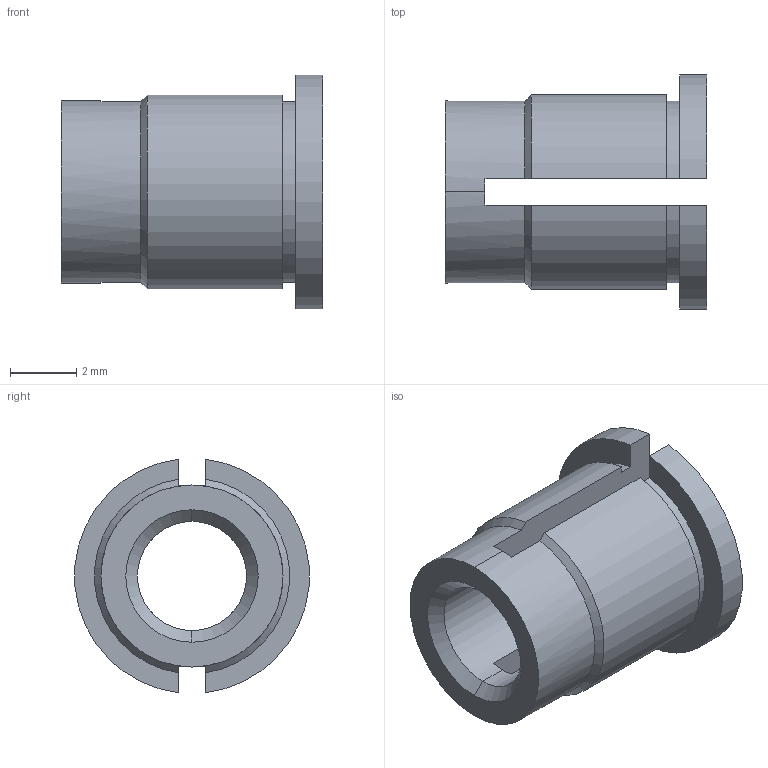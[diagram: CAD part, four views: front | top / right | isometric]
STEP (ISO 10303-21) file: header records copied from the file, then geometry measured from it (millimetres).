
FILE_DESCRIPTION (( 'STEP AP203' ), '1' );
FILE_NAME ('FSUK-EXPR-M04-S.STEP', '2021-04-15T17:31:10', ( '' ), ( '' ), 'SwSTEP 2.0', 'SolidWorks 2021', '' );
FILE_SCHEMA (( 'CONFIG_CONTROL_DESIGN' ));
Length unit declared in the file: millimetre
Products named in the file (1): FSUK-EXPR-M04-S
Bounding box: 7.9 x 7.07 x 7.05 mm (x, y, z)
Volume: 132.6 mm3; surface area: 302.5 mm2
Topology: 1 solids, 1 shells, 29 faces, 82 edges, 54 vertices
Faces by surface type: plane 13, cylinder 10, cone 6
Entity records: 1041 total; most frequent: CARTESIAN_POINT 190, DIRECTION 166, ORIENTED_EDGE 164, EDGE_CURVE 82, AXIS2_PLACEMENT_3D 62, VERTEX_POINT 54, LINE 42, VECTOR 42
